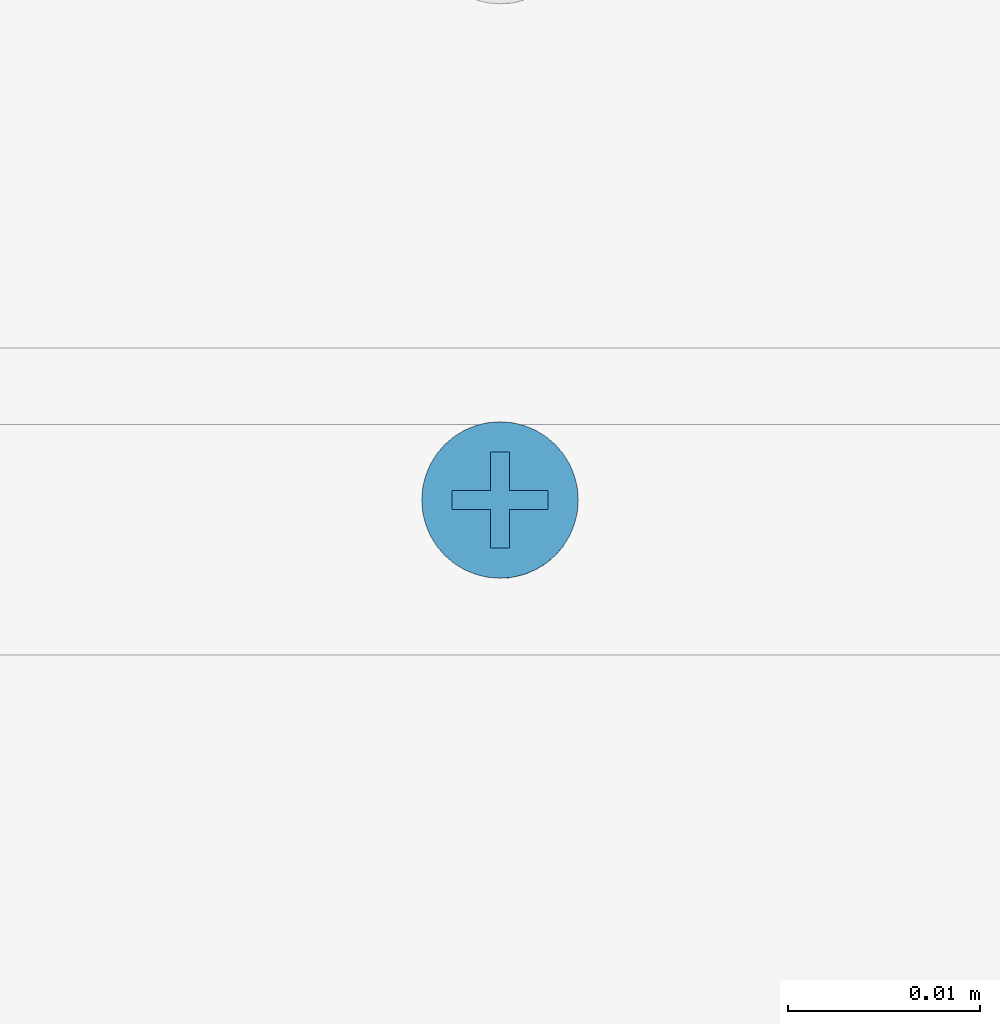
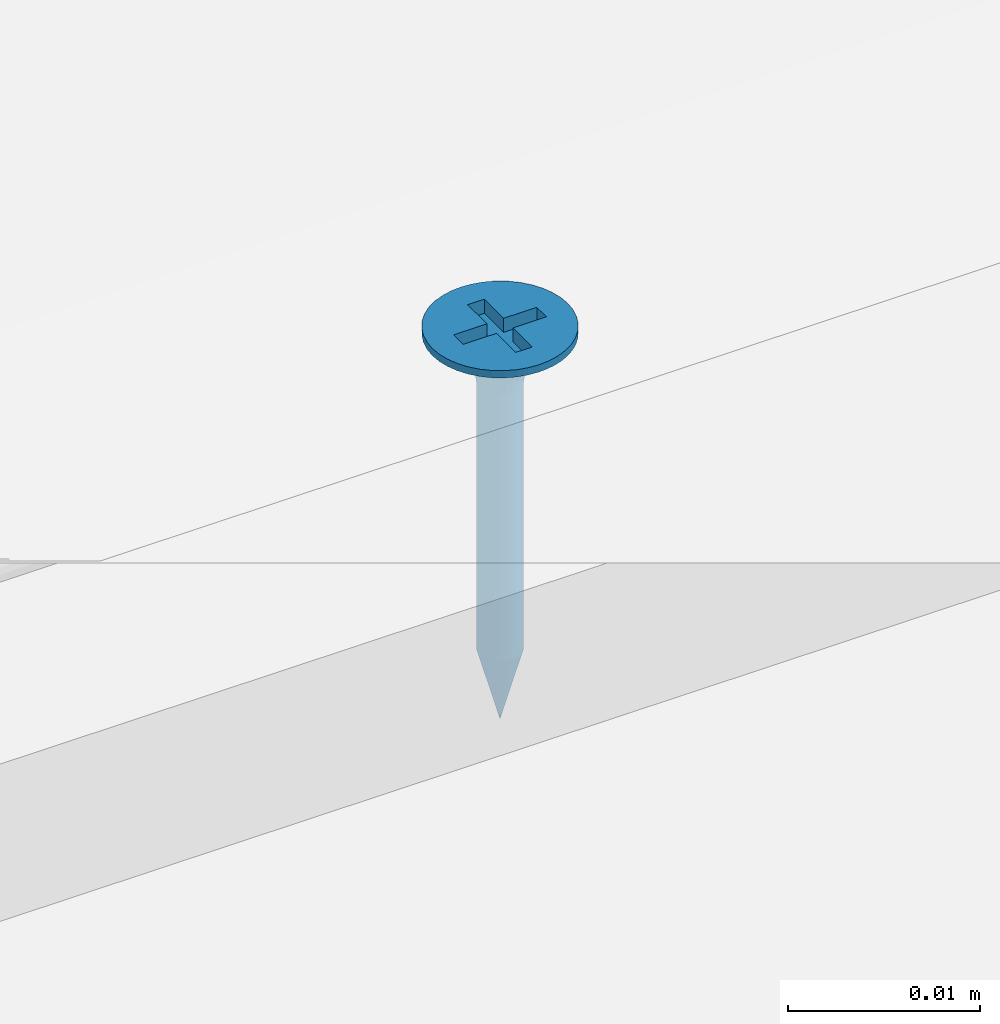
# One storey, part 6 of 47: 1 slab.
"""IFC2X3 building model written with IfcOpenShell, lengths in millimetres."""

import ifcopenshell
import ifcopenshell.guid

model = None  # the IFC model being written
_history = None  # IfcOwnerHistory: only IFC2X3 demands one
_inside = {}  # id of a spatial element -> (the spatial element, [elements in it])
_under = {}  # id of a project, library or spatial element -> (it, [spatial elements below it])
_declared = {}  # id of a project -> (the project, [libraries it declares])
_typed = {}  # id of a type object -> (the type object, [elements of that type])
_made_of = {}  # id of a material, layer set ... -> (it, [elements and type objects made of it])


def new_model(schema):
    """Start an empty IFC model of exactly this schema.

    Asked for "IFC4X3", IfcOpenShell would pick the latest addendum, in which some entities
    have other attributes; the version numbers below select the first issue.
    IFC2X3 requires an IfcOwnerHistory on every rooted entity: one is made here for all.
    """
    global model, _history
    if schema == "IFC4X3":
        model = ifcopenshell.file(schema_version=(4, 3, 0, 0))
    else:
        model = ifcopenshell.file(schema=schema)
    _inside.clear()
    _under.clear()
    _declared.clear()
    _typed.clear()
    _made_of.clear()
    _history = None
    if model.schema == "IFC2X3":
        org = make("IfcOrganization", Name="unknown")
        user = make(
            "IfcPersonAndOrganization",
            ThePerson=make("IfcPerson", FamilyName="unknown"),
            TheOrganization=org,
        )
        app = make(
            "IfcApplication",
            ApplicationDeveloper=org,
            Version="unknown",
            ApplicationFullName="unknown",
            ApplicationIdentifier="unknown",
        )
        _history = make(
            "IfcOwnerHistory",
            OwningUser=user,
            OwningApplication=app,
            ChangeAction="ADDED",
            CreationDate=0,
        )
    return model


def make(cls, **values):
    """One entity of the class cls with the attributes given. An attribute that is None is left unset."""
    return model.create_entity(
        cls, **{name: value for name, value in values.items() if value is not None}
    )


def entity(cls, *values):
    """Any entity or typed value of the class cls, its attributes in the order of the schema. None: left unset."""
    e = model.create_entity(cls)
    for i, value in enumerate(values):
        if value is not None:
            e[i] = value
    return e


def rooted(cls, **values):
    """An entity with a GlobalId (a new one), such as an element, a storey or a relation."""
    return make(cls, GlobalId=ifcopenshell.guid.new(), OwnerHistory=_history, **values)


def si_unit(unit_type, name, prefix=None):
    """IfcSIUnit, for example si_unit("LENGTHUNIT", "METRE", prefix="MILLI")."""
    return make("IfcSIUnit", UnitType=unit_type, Prefix=prefix, Name=name)


def converted_unit(unit_type, name, factor, base, dimensions=None, offset=None):
    """IfcConversionBasedUnit, such as the inch: factor (a typed value) times the base unit."""
    return make(
        "IfcConversionBasedUnit"
        if offset is None
        else "IfcConversionBasedUnitWithOffset",
        ConversionOffset=offset,
        Dimensions=None
        if dimensions is None
        else entity("IfcDimensionalExponents", *dimensions),
        UnitType=unit_type,
        Name=name,
        ConversionFactor=make(
            "IfcMeasureWithUnit", ValueComponent=factor, UnitComponent=base
        ),
    )


def assignment(units):
    """IfcUnitAssignment: the units of a project."""
    return None if units is None else make("IfcUnitAssignment", Units=units)


def point(xyz):
    """IfcCartesianPoint."""
    return None if xyz is None else make("IfcCartesianPoint", Coordinates=xyz)


def direction(xyz):
    """IfcDirection."""
    return None if xyz is None else make("IfcDirection", DirectionRatios=xyz)


def frame(location, z_axis=None, x_axis=None):
    """IfcAxis2Placement3D, a coordinate frame: its origin and axes. An axis left out is left unset."""
    return make(
        "IfcAxis2Placement3D",
        Location=point(location),
        Axis=direction(z_axis),
        RefDirection=direction(x_axis),
    )


def origin():
    """The frame at (0, 0, 0) with its axes left unset."""
    return frame((0.0, 0.0, 0.0))


def origin_with_axes():
    """The frame at (0, 0, 0) with the z axis (0, 0, 1) and the x axis (1, 0, 0) written out."""
    return frame((0.0, 0.0, 0.0), z_axis=(0.0, 0.0, 1.0), x_axis=(1.0, 0.0, 0.0))


def place(relative_to, where):
    """IfcLocalPlacement: puts the frame where relative to a parent placement (None: the world)."""
    return make(
        "IfcLocalPlacement", PlacementRelTo=relative_to, RelativePlacement=where
    )


def context(
    kind, dimensions, precision=None, world=None, true_north=None, identifier=None
):
    """IfcGeometricRepresentationContext, for example the 3D "Model" context."""
    return make(
        "IfcGeometricRepresentationContext",
        ContextIdentifier=identifier,
        ContextType=kind,
        CoordinateSpaceDimension=dimensions,
        Precision=precision,
        WorldCoordinateSystem=world,
        TrueNorth=true_north,
    )


def project(units=None, contexts=None):
    """IfcProject with its units and contexts."""
    return rooted(
        "IfcProject",
        Name="project",
        RepresentationContexts=contexts,
        UnitsInContext=assignment(units),
    )


def spatial(cls, under=None, at=None, **own):
    """A site, building, storey or space (cls), placed at a placement, below another one or the project."""
    s = rooted(cls, ObjectPlacement=at, **own)
    if under is not None:
        _under.setdefault(under.id(), (under, []))[1].append(s)
    return s


def faces_of(points, faces, orient=None, outer=None):
    """IfcFace entities. A face is a list of loops; a loop is a list of indices into points, from 0.

    orient and outer hold one flag for each loop. By default every Orientation is true, the
    first loop of a face is its IfcFaceOuterBound and the others are IfcFaceBound.
    """
    made = []
    for i, loops in enumerate(faces):
        bounds = []
        for j, loop in enumerate(loops):
            is_outer = j == 0 if outer is None else outer[i][j]
            bounds.append(
                make(
                    "IfcFaceOuterBound" if is_outer else "IfcFaceBound",
                    Bound=make("IfcPolyLoop", Polygon=[points[k] for k in loop]),
                    Orientation=True if orient is None else orient[i][j],
                )
            )
        made.append(make("IfcFace", Bounds=bounds))
    return made


def faceted_brep(points, faces, orient=None, outer=None, voids=None):
    """IfcFacetedBrep: a solid bounded by flat faces; with voids (closed shells), ...WithVoids."""
    shared = [point(p) for p in points]
    hull = make("IfcClosedShell", CfsFaces=faces_of(shared, faces, orient, outer))
    if voids is None:
        return make("IfcFacetedBrep", Outer=hull)
    return make(
        "IfcFacetedBrepWithVoids",
        Outer=hull,
        Voids=[
            make(cls, CfsFaces=faces_of(shared, fs, o, b)) for cls, fs, o, b in voids
        ],
    )


def shape(context_of_items, identifier, shape_type, items):
    """IfcShapeRepresentation: the items that make up one representation, for example the "Body"."""
    return make(
        "IfcShapeRepresentation",
        ContextOfItems=context_of_items,
        RepresentationIdentifier=identifier,
        RepresentationType=shape_type,
        Items=items,
    )


def made_of(thing, what):
    """Note that an element or type object is made of a material, layer set ...; save() writes the relation."""
    if what is not None:
        _made_of.setdefault(what.id(), (what, []))[1].append(thing)
    return thing


def element(
    cls,
    number,
    at=None,
    inside=None,
    cuts=None,
    type_object=None,
    material=None,
    context=None,
    identifier="Body",
    shape_type=None,
    held_by="IfcProductDefinitionShape",
    body=None,
    shapes=None,
    **own,
):
    """One element of the class cls, such as IfcWall. Its Tag is "e" and its number.

    at: its placement. inside: the storey or other place that contains it. cuts: it is an
    opening in that element (IfcRelVoidsElement). A single representation is given by context,
    identifier, shape_type and body (its items); several are given by shapes. held_by: the class
    of the entity that holds the representations. save() writes the other relations.
    """
    e = rooted(cls, Tag="e%d" % number, ObjectPlacement=at, **own)
    if body is not None:
        shapes = [shape(context, identifier, shape_type, body)]
    if shapes is not None:
        e.Representation = make(held_by, Representations=shapes)
    if inside is not None:
        _inside.setdefault(inside.id(), (inside, []))[1].append(e)
    if cuts is not None:
        rooted(
            "IfcRelVoidsElement", RelatingBuildingElement=cuts, RelatedOpeningElement=e
        )
    if type_object is not None:
        _typed.setdefault(type_object.id(), (type_object, []))[1].append(e)
    return made_of(e, material)


def aggregate(whole, parts):
    """IfcRelAggregates: a whole, such as a stair, and the parts it consists of."""
    return rooted("IfcRelAggregates", RelatingObject=whole, RelatedObjects=parts)


def save(model, path):
    """Write the relations noted so far, then the file.

    IfcRelAggregates (storeys below a building ...), IfcRelContainedInSpatialStructure (elements
    in a storey), IfcRelDefinesByType, IfcRelAssociatesMaterial and IfcRelDeclares: one each for
    every whole, place, type object, material and project.
    """
    for whole, parts in _under.values():
        aggregate(whole, parts)
    for where, things in _inside.values():
        rooted(
            "IfcRelContainedInSpatialStructure",
            RelatedElements=things,
            RelatingStructure=where,
        )
    for kind, things in _typed.values():
        rooted("IfcRelDefinesByType", RelatedObjects=things, RelatingType=kind)
    for what, things in _made_of.values():
        rooted("IfcRelAssociatesMaterial", RelatedObjects=things, RelatingMaterial=what)
    for by, libraries in _declared.values():
        rooted("IfcRelDeclares", RelatingContext=by, RelatedDefinitions=libraries)
    model.write(path)


model = new_model("IFC2X3")

# Units and contexts
model_context = context("Model", 3, precision=1e-05, world=origin(), true_north=direction((0.0, 1.0, 0.0)))
ifc_project = project(units=[si_unit("LENGTHUNIT", "METRE", prefix="MILLI"), si_unit("AREAUNIT", "SQUARE_METRE"), si_unit("VOLUMEUNIT", "CUBIC_METRE"), converted_unit("PLANEANGLEUNIT", "DEGREE", entity("IfcPlaneAngleMeasure", 0.01745), si_unit("PLANEANGLEUNIT", "RADIAN"), dimensions=[0, 0, 0, 0, 0, 0, 0]), si_unit("SOLIDANGLEUNIT", "STERADIAN"), si_unit("MASSUNIT", "GRAM"), si_unit("TIMEUNIT", "SECOND"), si_unit("THERMODYNAMICTEMPERATUREUNIT", "DEGREE_CELSIUS"), si_unit("LUMINOUSINTENSITYUNIT", "LUMEN")], contexts=[model_context])

# Site, building, storey
site_placement = place(None, origin_with_axes())
site = spatial("IfcSite", under=ifc_project, at=site_placement, Name="Default Site", CompositionType="ELEMENT")
building_placement = place(site_placement, origin_with_axes())
building = spatial("IfcBuilding", under=site, at=building_placement, Name="Default Building", CompositionType="ELEMENT")
storey_placement = place(building_placement, origin_with_axes())
storey = spatial("IfcBuildingStorey", under=building, at=storey_placement, Name="Default Building Storey", CompositionType="ELEMENT", Elevation=0.0)

# Slab
slab_placement = place(storey_placement, frame((2385.048962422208, 928.4586075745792, -3328.636918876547), z_axis=(-1.85031715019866e-13, 1.0, -1.136587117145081e-12), x_axis=(-1.0, -1.850317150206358e-13, -6.773047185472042e-13)))
element("IfcSlab", 1, at=slab_placement, inside=storey, Name="Wkręt RIGIPS Rigidur 3,9x19 mm", context=model_context, shape_type="Brep", body=[
    faceted_brep([(-141.5377463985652, 3390.556721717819, 555.8000000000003), (-141.5377463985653, 3391.020944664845, 555.8000000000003), (-141.4875329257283, 3391.020944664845, 555.1619773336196), (-141.4875329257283, 3390.556721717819, 555.1619773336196), (-141.3381289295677, 3391.020944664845, 554.5396649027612), (-141.3381289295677, 3390.556721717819, 554.5396649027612), (-141.0932132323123, 3391.020944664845, 553.9483861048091), (-141.0932132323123, 3390.556721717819, 553.9483861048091), (-140.7588164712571, 3391.020944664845, 553.4027001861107), (-140.7588164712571, 3390.556721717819, 553.4027001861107), (-140.3431726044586, 3391.020944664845, 552.9160437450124), (-140.4541727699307, 3390.556721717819, 553.0314907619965), (-140.1080097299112, 3390.556721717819, 552.6986614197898), (-139.8565161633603, 3391.020944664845, 552.5003998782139), (-139.7251262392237, 3390.556721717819, 552.4088262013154), (-139.310830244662, 3391.020944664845, 552.1660031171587), (-139.310830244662, 3390.556721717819, 552.1660031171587), (-138.8708651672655, 3390.556721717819, 551.9735584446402), (-138.7195514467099, 3391.020944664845, 551.9210874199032), (-138.4113302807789, 3390.556721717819, 551.8341600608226), (-137.9385961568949, 3390.556721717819, 551.7497404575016), (-138.0972390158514, 3391.020944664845, 551.7716834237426), (-137.4592163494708, 3391.020944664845, 551.7214699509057), (-137.4592163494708, 3390.556721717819, 551.7214699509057), (-136.8211936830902, 3391.020944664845, 551.7716834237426), (-136.8211936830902, 3390.556721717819, 551.7716834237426), (-136.1988812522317, 3391.020944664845, 551.9210874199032), (-136.1988812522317, 3390.556721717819, 551.9210874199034), (-135.6076024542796, 3391.020944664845, 552.1660031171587), (-135.6076024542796, 3390.556721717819, 552.1660031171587), (-135.0619165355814, 3391.020944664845, 552.5003998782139), (-135.0619165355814, 3390.556721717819, 552.5003998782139), (-134.575260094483, 3391.020944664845, 552.9160437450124), (-134.575260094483, 3390.556721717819, 552.9160437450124), (-134.1596162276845, 3391.020944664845, 553.4027001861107), (-134.1596162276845, 3390.556721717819, 553.4027001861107), (-133.8252194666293, 3391.020944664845, 553.9483861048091), (-133.8252194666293, 3390.556721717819, 553.9483861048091), (-133.5803037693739, 3391.020944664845, 554.5396649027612), (-133.5803037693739, 3390.556721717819, 554.5396649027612), (-133.4308997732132, 3391.020944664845, 556.4380226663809), (-133.4308997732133, 3390.556721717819, 556.4380226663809), (-133.3806863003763, 3390.556721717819, 555.8000000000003), (-133.3806863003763, 3391.020944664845, 555.8000000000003), (-133.4308997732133, 3390.556721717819, 555.1619773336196), (-133.4308997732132, 3391.020944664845, 555.1619773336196), (-133.5803037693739, 3391.020944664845, 557.0603350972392), (-133.5803037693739, 3390.556721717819, 557.0603350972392), (-133.8252194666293, 3391.020944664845, 557.6516138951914), (-133.8252194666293, 3390.556721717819, 557.6516138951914), (-134.1596162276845, 3391.020944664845, 558.1972998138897), (-134.1596162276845, 3390.556721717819, 558.1972998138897), (-134.575260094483, 3391.020944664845, 558.683956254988), (-134.575260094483, 3390.556721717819, 558.683956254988), (-135.0619165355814, 3391.020944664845, 559.0996001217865), (-135.0619165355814, 3390.556721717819, 559.0996001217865), (-135.6076024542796, 3391.020944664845, 559.4339968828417), (-135.6076024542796, 3390.556721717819, 559.4339968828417), (-136.1988812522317, 3391.020944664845, 559.6789125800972), (-136.1988812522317, 3390.556721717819, 559.6789125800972), (-136.8211936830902, 3391.020944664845, 559.8283165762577), (-136.8211936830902, 3390.556721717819, 559.8283165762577), (-137.4592163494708, 3391.020944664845, 559.8785300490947), (-137.4592163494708, 3390.556721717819, 559.8785300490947), (-138.0972390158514, 3391.020944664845, 559.8283165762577), (-138.0972390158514, 3390.556721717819, 559.8283165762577), (-138.7195514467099, 3391.020944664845, 559.6789125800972), (-138.7195514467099, 3390.556721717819, 559.6789125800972), (-139.310830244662, 3391.020944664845, 559.4339968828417), (-139.310830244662, 3390.556721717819, 559.4339968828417), (-139.8565161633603, 3391.020944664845, 559.0996001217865), (-139.8565161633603, 3390.556721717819, 559.0996001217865), (-140.3431726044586, 3391.020944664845, 558.683956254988), (-140.3431726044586, 3390.556721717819, 558.683956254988), (-140.7588164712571, 3391.020944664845, 558.1972998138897), (-140.7588164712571, 3390.556721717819, 558.1972998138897), (-141.0932132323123, 3391.020944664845, 557.6516138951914), (-141.0932132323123, 3390.556721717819, 557.6516138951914), (-141.3381289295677, 3391.020944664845, 557.0603350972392), (-141.3381289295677, 3390.556721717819, 557.0603350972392), (-141.4875329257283, 3391.020944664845, 556.4380226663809), (-141.4875329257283, 3390.556721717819, 556.4380226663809), (-137.80606154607, 3388.229732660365, 554.5055560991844), (-137.4592163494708, 3387.475459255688, 554.5693795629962), (-137.6517277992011, 3387.475459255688, 554.5845305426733), (-137.4592163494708, 3388.229732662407, 554.4598930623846), (-137.8394989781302, 3387.475459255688, 554.6296104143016), (-138.1292698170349, 3388.229732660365, 554.639433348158), (-138.0179063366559, 3387.475459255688, 554.7035091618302), (-138.1825568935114, 3387.475459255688, 554.804407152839), (-138.4068150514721, 3388.229732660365, 554.8524012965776), (-138.3293964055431, 3387.475459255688, 554.929819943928), (-138.6197830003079, 3388.229732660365, 555.1299465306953), (-138.4548091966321, 3387.475459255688, 555.0766594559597), (-138.5557071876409, 3387.475459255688, 555.2413100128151), (-138.7536602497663, 3388.229732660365, 555.4531548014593), (-138.6296059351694, 3387.475459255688, 555.4197173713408), (-138.6746858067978, 3387.475459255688, 555.60748855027), (-138.7993232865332, 3388.229732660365, 555.7999999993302), (-138.6898367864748, 3387.475459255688, 555.8000000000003), (-138.753660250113, 3388.229732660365, 556.1468451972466), (-138.6746858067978, 3387.475459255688, 555.9925114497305), (-138.6296059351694, 3387.475459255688, 556.1802826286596), (-138.619783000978, 3388.229732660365, 556.4700534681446), (-138.5557071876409, 3387.475459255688, 556.3586899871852), (-138.4548091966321, 3387.475459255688, 556.5233405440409), (-138.4068150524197, 3388.229732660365, 556.7475987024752), (-138.3293964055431, 3387.475459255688, 556.6701800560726), (-138.1292698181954, 3388.229732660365, 556.9605666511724), (-138.1825568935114, 3387.475459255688, 556.7955928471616), (-138.0179063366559, 3387.475459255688, 556.8964908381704), (-137.8060615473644, 3388.229732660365, 557.0944439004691), (-137.8394989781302, 3387.475459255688, 556.9703895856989), (-137.6517277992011, 3387.475459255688, 557.0154694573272), (-137.4592163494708, 3388.229732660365, 557.1401069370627), (-137.4592163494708, 3387.475459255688, 557.0306204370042), (-137.1123711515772, 3388.229732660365, 557.0944439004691), (-137.2667048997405, 3387.475459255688, 557.0154694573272), (-137.0789337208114, 3387.475459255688, 556.9703895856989), (-136.7891628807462, 3388.229732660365, 556.9605666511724), (-136.9005263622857, 3387.475459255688, 556.8964908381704), (-136.7358758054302, 3387.475459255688, 556.7955928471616), (-136.5116176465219, 3388.229732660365, 556.7475987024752), (-136.5890362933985, 3387.475459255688, 556.6701800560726), (-136.2986496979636, 3388.229732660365, 556.4700534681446), (-136.4636235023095, 3387.475459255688, 556.5233405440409), (-136.3627255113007, 3387.475459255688, 556.3586899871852), (-136.1647724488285, 3388.229732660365, 556.1468451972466), (-136.2888267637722, 3387.475459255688, 556.1802826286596), (-136.2437468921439, 3387.475459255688, 555.9925114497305), (-136.1191094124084, 3388.229732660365, 555.7999999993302), (-136.2285959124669, 3387.475459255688, 555.8000000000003), (-136.1647724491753, 3388.229732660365, 555.4531548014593), (-136.2437468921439, 3387.475459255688, 555.60748855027), (-136.2888267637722, 3387.475459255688, 555.4197173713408), (-136.2986496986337, 3388.229732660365, 555.1299465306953), (-136.3627255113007, 3387.475459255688, 555.2413100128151), (-136.4636235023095, 3387.475459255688, 555.0766594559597), (-136.5116176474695, 3388.229732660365, 554.8524012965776), (-136.5890362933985, 3387.475459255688, 554.929819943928), (-136.7891628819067, 3388.229732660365, 554.639433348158), (-136.7358758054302, 3387.475459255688, 554.804407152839), (-136.9005263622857, 3387.475459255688, 554.7035091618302), (-137.1123711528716, 3388.229732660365, 554.5055560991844), (-137.0789337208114, 3387.475459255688, 554.6296104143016), (-137.2667048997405, 3387.475459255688, 554.5845305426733), (-137.4592163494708, 3388.936142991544, 554.1737111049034), (-137.8801308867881, 3388.936142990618, 554.229125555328), (-138.2723607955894, 3388.936142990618, 554.3915925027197), (-138.6091762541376, 3388.936142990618, 554.6500400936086), (-138.8676238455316, 3388.936142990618, 554.9868555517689), (-139.0300907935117, 3388.936142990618, 555.3790854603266), (-139.0855052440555, 3388.936142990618, 555.7999999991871), (-139.0300907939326, 3388.936142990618, 556.2209145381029), (-138.8676238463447, 3388.936142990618, 556.6131444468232), (-138.6091762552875, 3388.936142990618, 556.9499599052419), (-138.2723607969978, 3388.936142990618, 557.2084074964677), (-137.880130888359, 3388.936142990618, 557.3708744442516), (-137.4592163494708, 3388.936142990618, 557.426288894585), (-137.0383018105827, 3388.936142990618, 557.3708744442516), (-136.6460719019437, 3388.936142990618, 557.2084074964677), (-136.3092564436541, 3388.936142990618, 556.9499599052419), (-136.0508088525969, 3388.936142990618, 556.6131444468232), (-135.8883419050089, 3388.936142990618, 556.2209145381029), (-135.8329274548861, 3388.936142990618, 555.7999999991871), (-135.8883419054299, 3388.936142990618, 555.3790854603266), (-136.05080885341, 3388.936142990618, 554.9868555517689), (-136.309256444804, 3388.936142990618, 554.6500400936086), (-136.6460719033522, 3388.936142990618, 554.3915925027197), (-137.0383018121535, 3388.936142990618, 554.229125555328), (-137.4592163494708, 3389.553938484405, 553.7273431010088), (-137.9956594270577, 3389.553938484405, 553.7979671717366), (-138.4955447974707, 3389.553938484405, 554.005026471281), (-138.9248060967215, 3389.553938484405, 554.3344102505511), (-139.2541898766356, 3389.553938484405, 554.7636715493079), (-139.4612491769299, 3389.553938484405, 555.2635569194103), (-139.5318732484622, 3389.553938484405, 555.7999999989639), (-139.4612491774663, 3389.553938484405, 556.3364430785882), (-139.2541898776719, 3389.553938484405, 556.8363284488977), (-138.9248060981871, 3389.553938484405, 557.2655897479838), (-138.4955447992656, 3389.553938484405, 557.594973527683), (-137.9956594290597, 3389.553938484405, 557.8020328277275), (-137.4592163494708, 3389.553938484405, 557.8726568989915), (-136.9227732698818, 3389.553938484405, 557.8020328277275), (-136.4228878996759, 3389.553938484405, 557.594973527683), (-135.9936266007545, 3389.553938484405, 557.2655897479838), (-135.6642428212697, 3389.553938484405, 556.8363284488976), (-135.4571835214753, 3389.553938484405, 556.3364430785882), (-135.3865594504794, 3389.553938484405, 555.7999999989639), (-135.4571835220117, 3389.553938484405, 555.2635569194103), (-135.664242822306, 3389.553938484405, 554.7636715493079), (-135.9936266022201, 3389.553938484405, 554.3344102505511), (-136.4228879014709, 3389.553938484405, 554.005026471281), (-136.9227732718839, 3389.553938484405, 553.7979671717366), (-137.4592163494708, 3390.047479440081, 553.1465393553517), (-138.1459824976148, 3390.047479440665, 553.2369538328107), (-138.7859466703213, 3390.047479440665, 553.5020356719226), (-139.3354963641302, 3390.047479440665, 553.9237199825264), (-139.7571806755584, 3390.047479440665, 554.4732696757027), (-140.0222625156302, 3390.047479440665, 555.1132338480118), (-140.1126769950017, 3390.047479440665, 555.7999999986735), (-140.0222625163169, 3390.047479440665, 556.4867661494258), (-139.7571806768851, 3390.047479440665, 557.1267303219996), (-139.3354963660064, 3390.047479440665, 557.6762800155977), (-138.7859466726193, 3390.047479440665, 558.0979643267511), (-138.1459825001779, 3390.047479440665, 558.3630461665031), (-137.4592163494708, 3390.047479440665, 558.4534606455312), (-136.7724501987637, 3390.047479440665, 558.3630461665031), (-136.1324860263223, 3390.047479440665, 558.0979643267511), (-135.5829363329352, 3390.047479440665, 557.6762800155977), (-135.1612520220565, 3390.047479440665, 557.1267303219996), (-134.8961701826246, 3390.047479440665, 556.4867661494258), (-134.8057557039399, 3390.047479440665, 555.7999999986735), (-134.8961701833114, 3390.047479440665, 555.1132338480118), (-135.1612520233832, 3390.047479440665, 554.4732696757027), (-135.5829363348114, 3390.047479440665, 553.9237199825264), (-136.1324860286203, 3390.047479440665, 553.5020356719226), (-136.7724502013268, 3390.047479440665, 553.2369538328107), (-137.4592163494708, 3390.388294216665, 552.4648055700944), (-138.3224281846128, 3390.388294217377, 552.578449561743), (-139.1268135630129, 3390.388294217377, 552.9116368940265), (-139.8175549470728, 3390.388294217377, 553.4416613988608), (-140.3475794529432, 3390.388294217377, 554.1324027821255), (-140.6807667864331, 3390.388294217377, 554.9367881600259), (-140.7944107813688, 3390.388294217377, 555.7999999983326), (-140.6807667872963, 3390.388294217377, 556.6632118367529), (-140.3475794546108, 3390.388294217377, 557.4675972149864), (-139.8175549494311, 3390.388294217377, 558.1583385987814), (-139.1268135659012, 3390.388294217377, 558.6883631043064), (-138.3224281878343, 3390.388294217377, 559.0215504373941), (-137.4592163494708, 3390.388294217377, 559.1351944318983), (-136.5960045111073, 3390.388294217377, 559.0215504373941), (-135.7916191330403, 3390.388294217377, 558.6883631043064), (-135.1008777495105, 3390.388294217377, 558.1583385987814), (-134.5708532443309, 3390.388294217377, 557.4675972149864), (-134.2376659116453, 3390.388294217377, 556.6632118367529), (-134.1240219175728, 3390.388294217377, 555.7999999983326), (-134.2376659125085, 3390.388294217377, 554.9367881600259), (-134.5708532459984, 3390.388294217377, 554.1324027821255), (-135.1008777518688, 3390.388294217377, 553.4416613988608), (-135.7916191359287, 3390.388294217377, 552.9116368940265), (-136.5960045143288, 3390.388294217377, 552.578449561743), (-138.6898367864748, 3370.55807436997, 555.8000000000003), (-138.6746858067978, 3370.55807436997, 555.60748855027), (-138.6296059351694, 3370.55807436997, 555.4197173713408), (-138.5557071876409, 3370.55807436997, 555.2413100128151), (-138.4548091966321, 3370.55807436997, 555.0766594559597), (-138.3293964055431, 3370.55807436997, 554.929819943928), (-138.1825568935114, 3370.55807436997, 554.804407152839), (-138.0179063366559, 3370.55807436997, 554.7035091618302), (-137.8394989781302, 3370.55807436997, 554.6296104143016), (-137.6517277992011, 3370.55807436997, 554.5845305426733), (-137.4592163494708, 3370.55807436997, 554.5693795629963), (-137.2667048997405, 3370.55807436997, 554.5845305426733), (-137.0789337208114, 3370.55807436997, 554.6296104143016), (-136.9005263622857, 3370.55807436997, 554.7035091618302), (-136.7358758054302, 3370.55807436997, 554.804407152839), (-136.5890362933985, 3370.55807436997, 554.929819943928), (-136.4636235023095, 3370.55807436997, 555.0766594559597), (-136.3627255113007, 3370.55807436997, 555.2413100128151), (-136.2888267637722, 3370.55807436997, 555.4197173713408), (-136.2437468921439, 3370.55807436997, 555.9925114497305), (-136.2285959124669, 3370.55807436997, 555.8000000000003), (-136.2437468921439, 3370.55807436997, 555.60748855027), (-136.2888267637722, 3370.55807436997, 556.1802826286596), (-136.3627255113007, 3370.55807436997, 556.3586899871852), (-136.4636235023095, 3370.55807436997, 556.5233405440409), (-136.5890362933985, 3370.55807436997, 556.6701800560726), (-136.7358758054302, 3370.55807436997, 556.7955928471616), (-136.9005263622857, 3370.55807436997, 556.8964908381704), (-137.0789337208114, 3370.55807436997, 556.9703895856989), (-137.2667048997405, 3370.55807436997, 557.0154694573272), (-137.4592163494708, 3370.55807436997, 557.0306204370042), (-137.6517277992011, 3370.55807436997, 557.0154694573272), (-137.8394989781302, 3370.55807436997, 556.9703895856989), (-138.0179063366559, 3370.55807436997, 556.8964908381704), (-138.1825568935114, 3370.55807436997, 556.7955928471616), (-138.3293964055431, 3370.55807436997, 556.6701800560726), (-138.4548091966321, 3370.55807436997, 556.5233405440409), (-138.5557071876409, 3370.55807436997, 556.3586899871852), (-138.6296059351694, 3370.55807436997, 556.1802826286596), (-138.6746858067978, 3370.55807436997, 555.9925114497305), (-137.4592163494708, 3366.021033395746, 555.8000000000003), (-139.9592163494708, 3391.020944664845, 556.3000000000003), (-137.9592163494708, 3391.020944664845, 556.3000000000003), (-139.9592163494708, 3391.020944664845, 555.3000000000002), (-137.9592163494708, 3391.020944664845, 555.3000000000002), (-137.9592163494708, 3391.020944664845, 553.3000000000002), (-136.9592163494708, 3391.020944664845, 553.3000000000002), (-136.9592163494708, 3391.020944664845, 555.3000000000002), (-134.9592163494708, 3391.020944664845, 555.3000000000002), (-134.9592163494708, 3391.020944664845, 556.3000000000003), (-136.9592163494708, 3391.020944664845, 556.3000000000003), (-136.9592163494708, 3391.020944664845, 558.3000000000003), (-137.9592163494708, 3391.020944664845, 558.3000000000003), (-136.9592163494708, 3390.128974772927, 556.3000000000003), (-134.9592163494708, 3390.128974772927, 556.3000000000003), (-134.9592163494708, 3390.128974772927, 555.3000000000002), (-136.9592163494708, 3390.128974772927, 555.3000000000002), (-136.9592163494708, 3390.128974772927, 553.3000000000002), (-137.9592163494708, 3390.128974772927, 553.3000000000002), (-137.9592163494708, 3390.128974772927, 555.3000000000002), (-139.9592163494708, 3390.128974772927, 555.3000000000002), (-139.9592163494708, 3390.128974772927, 556.3000000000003), (-137.9592163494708, 3390.128974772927, 556.3000000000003), (-137.9592163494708, 3390.128974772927, 558.3000000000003), (-136.9592163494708, 3390.128974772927, 558.3000000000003)], [[[0, 1, 2, 3]], [[4, 5, 3, 2]], [[6, 7, 5, 4]], [[7, 6, 8, 9]], [[8, 10, 9]], [[10, 11, 9]], [[12, 11, 13]], [[11, 10, 13]], [[13, 14, 12]], [[13, 15, 14]], [[15, 16, 14]], [[17, 16, 18]], [[16, 15, 18]], [[18, 19, 17]], [[20, 19, 21]], [[19, 18, 21]], [[21, 22, 20]], [[22, 23, 20]], [[23, 22, 24, 25]], [[26, 27, 25, 24]], [[28, 29, 27, 26]], [[29, 28, 30, 31]], [[32, 33, 31, 30]], [[33, 32, 34, 35]], [[36, 37, 35, 34]], [[38, 39, 37, 36]], [[40, 41, 42, 43]], [[43, 42, 44, 45]], [[39, 38, 45, 44]], [[46, 47, 41, 40]], [[48, 49, 47, 46]], [[49, 48, 50, 51]], [[52, 53, 51, 50]], [[53, 52, 54, 55]], [[56, 57, 55, 54]], [[58, 59, 57, 56]], [[59, 58, 60, 61]], [[62, 63, 61, 60]], [[63, 62, 64, 65]], [[66, 67, 65, 64]], [[68, 69, 67, 66]], [[69, 68, 70, 71]], [[72, 73, 71, 70]], [[73, 72, 74, 75]], [[76, 77, 75, 74]], [[78, 79, 77, 76]], [[79, 78, 80, 81]], [[1, 0, 81, 80]], [[82, 83, 84]], [[82, 85, 83]], [[84, 86, 82]], [[82, 86, 87]], [[88, 87, 86]], [[87, 88, 89]], [[89, 90, 87]], [[89, 91, 90]], [[92, 91, 93]], [[92, 90, 91]], [[93, 94, 92]], [[92, 94, 95]], [[96, 95, 94]], [[95, 96, 97]], [[97, 98, 95]], [[97, 99, 98]], [[100, 99, 101]], [[100, 98, 99]], [[101, 102, 100]], [[100, 102, 103]], [[104, 103, 102]], [[103, 104, 105]], [[105, 106, 103]], [[105, 107, 106]], [[108, 107, 109]], [[108, 106, 107]], [[109, 110, 108]], [[108, 110, 111]], [[112, 111, 110]], [[111, 112, 113]], [[113, 114, 111]], [[113, 115, 114]], [[116, 115, 117]], [[116, 114, 115]], [[117, 118, 116]], [[116, 118, 119]], [[120, 119, 118]], [[119, 120, 121]], [[121, 122, 119]], [[121, 123, 122]], [[124, 123, 125]], [[124, 122, 123]], [[125, 126, 124]], [[124, 126, 127]], [[128, 127, 126]], [[127, 128, 129]], [[129, 130, 127]], [[129, 131, 130]], [[132, 131, 133]], [[132, 130, 131]], [[133, 134, 132]], [[132, 134, 135]], [[136, 135, 134]], [[135, 136, 137]], [[137, 138, 135]], [[137, 139, 138]], [[140, 139, 141]], [[140, 138, 139]], [[141, 142, 140]], [[140, 142, 143]], [[144, 143, 142]], [[143, 144, 145]], [[145, 85, 143]], [[145, 83, 85]], [[146, 85, 147]], [[82, 147, 85]], [[87, 148, 147, 82]], [[90, 149, 148, 87]], [[92, 150, 149, 90]], [[95, 151, 150, 92]], [[98, 152, 151, 95]], [[100, 153, 152, 98]], [[103, 154, 153, 100]], [[106, 155, 154, 103]], [[108, 156, 155, 106]], [[111, 157, 156, 108]], [[114, 158, 157, 111]], [[116, 159, 158, 114]], [[119, 160, 159, 116]], [[122, 161, 160, 119]], [[124, 162, 161, 122]], [[127, 163, 162, 124]], [[130, 164, 163, 127]], [[132, 165, 164, 130]], [[135, 166, 165, 132]], [[138, 167, 166, 135]], [[140, 168, 167, 138]], [[143, 169, 168, 140]], [[143, 85, 169]], [[146, 169, 85]], [[170, 146, 171]], [[147, 171, 146]], [[148, 172, 171, 147]], [[149, 173, 172, 148]], [[150, 174, 173, 149]], [[151, 175, 174, 150]], [[152, 176, 175, 151]], [[153, 177, 176, 152]], [[154, 178, 177, 153]], [[155, 179, 178, 154]], [[156, 180, 179, 155]], [[157, 181, 180, 156]], [[158, 182, 181, 157]], [[159, 183, 182, 158]], [[160, 184, 183, 159]], [[161, 185, 184, 160]], [[162, 186, 185, 161]], [[163, 187, 186, 162]], [[164, 188, 187, 163]], [[165, 189, 188, 164]], [[166, 190, 189, 165]], [[167, 191, 190, 166]], [[168, 192, 191, 167]], [[169, 193, 192, 168]], [[169, 146, 193]], [[170, 193, 146]], [[194, 170, 195]], [[171, 195, 170]], [[172, 196, 195, 171]], [[173, 197, 196, 172]], [[174, 198, 197, 173]], [[175, 199, 198, 174]], [[176, 200, 199, 175]], [[177, 201, 200, 176]], [[178, 202, 201, 177]], [[179, 203, 202, 178]], [[180, 204, 203, 179]], [[181, 205, 204, 180]], [[182, 206, 205, 181]], [[183, 207, 206, 182]], [[184, 208, 207, 183]], [[185, 209, 208, 184]], [[186, 210, 209, 185]], [[187, 211, 210, 186]], [[188, 212, 211, 187]], [[189, 213, 212, 188]], [[190, 214, 213, 189]], [[191, 215, 214, 190]], [[192, 216, 215, 191]], [[193, 217, 216, 192]], [[193, 170, 217]], [[194, 217, 170]], [[218, 19, 20]], [[218, 219, 19]], [[20, 23, 218]], [[218, 194, 219]], [[195, 219, 194]], [[219, 16, 17]], [[219, 220, 16]], [[17, 19, 219]], [[196, 220, 219, 195]], [[221, 11, 12]], [[220, 12, 14]], [[220, 221, 12]], [[14, 16, 220]], [[197, 221, 220, 196]], [[222, 7, 9]], [[9, 221, 222]], [[9, 11, 221]], [[198, 222, 221, 197]], [[5, 7, 223]], [[222, 223, 7]], [[199, 223, 222, 198]], [[223, 0, 3]], [[223, 224, 0]], [[3, 5, 223]], [[200, 224, 223, 199]], [[225, 79, 81]], [[81, 224, 225]], [[81, 0, 224]], [[201, 225, 224, 200]], [[225, 226, 77, 79]], [[202, 226, 225, 201]], [[226, 73, 75]], [[226, 227, 73]], [[75, 77, 226]], [[203, 227, 226, 202]], [[228, 69, 71]], [[71, 227, 228]], [[71, 73, 227]], [[204, 228, 227, 203]], [[228, 229, 67, 69]], [[205, 229, 228, 204]], [[229, 63, 65]], [[229, 230, 63]], [[65, 67, 229]], [[206, 230, 229, 205]], [[231, 59, 61]], [[61, 230, 231]], [[61, 63, 230]], [[207, 231, 230, 206]], [[231, 232, 57, 59]], [[208, 232, 231, 207]], [[232, 53, 55]], [[232, 233, 53]], [[55, 57, 232]], [[209, 233, 232, 208]], [[234, 49, 51]], [[51, 233, 234]], [[51, 53, 233]], [[210, 234, 233, 209]], [[234, 235, 47, 49]], [[211, 235, 234, 210]], [[235, 42, 41]], [[235, 236, 42]], [[41, 47, 235]], [[212, 236, 235, 211]], [[237, 39, 44]], [[44, 236, 237]], [[44, 42, 236]], [[213, 237, 236, 212]], [[37, 39, 238]], [[237, 238, 39]], [[214, 238, 237, 213]], [[238, 33, 35]], [[238, 239, 33]], [[35, 37, 238]], [[215, 239, 238, 214]], [[240, 29, 31]], [[31, 239, 240]], [[31, 33, 239]], [[216, 240, 239, 215]], [[27, 29, 241]], [[240, 241, 29]], [[217, 241, 240, 216]], [[217, 194, 241]], [[218, 241, 194]], [[241, 23, 25]], [[241, 218, 23]], [[25, 27, 241]], [[242, 99, 97, 243]], [[96, 244, 243, 97]], [[94, 245, 244, 96]], [[245, 94, 93, 246]], [[91, 247, 246, 93]], [[247, 91, 89, 248]], [[88, 249, 248, 89]], [[86, 250, 249, 88]], [[250, 86, 84, 251]], [[83, 252, 251, 84]], [[252, 83, 145, 253]], [[144, 254, 253, 145]], [[142, 255, 254, 144]], [[255, 142, 141, 256]], [[139, 257, 256, 141]], [[257, 139, 137, 258]], [[136, 259, 258, 137]], [[134, 260, 259, 136]], [[129, 261, 262, 131]], [[131, 262, 263, 133]], [[260, 134, 133, 263]], [[128, 264, 261, 129]], [[126, 265, 264, 128]], [[265, 126, 125, 266]], [[123, 267, 266, 125]], [[267, 123, 121, 268]], [[120, 269, 268, 121]], [[118, 270, 269, 120]], [[270, 118, 117, 271]], [[115, 272, 271, 117]], [[272, 115, 113, 273]], [[112, 274, 273, 113]], [[110, 275, 274, 112]], [[275, 110, 109, 276]], [[107, 277, 276, 109]], [[277, 107, 105, 278]], [[104, 279, 278, 105]], [[102, 280, 279, 104]], [[280, 102, 101, 281]], [[99, 242, 281, 101]], [[243, 244, 282]], [[282, 242, 243]], [[244, 245, 282]], [[246, 247, 282]], [[282, 245, 246]], [[248, 249, 282]], [[282, 247, 248]], [[249, 250, 282]], [[251, 252, 282]], [[282, 250, 251]], [[253, 254, 282]], [[282, 252, 253]], [[254, 255, 282]], [[256, 257, 282]], [[282, 255, 256]], [[258, 259, 282]], [[282, 257, 258]], [[259, 260, 282]], [[263, 262, 282]], [[282, 260, 263]], [[261, 264, 282]], [[282, 262, 261]], [[264, 265, 282]], [[266, 267, 282]], [[282, 265, 266]], [[268, 269, 282]], [[282, 267, 268]], [[269, 270, 282]], [[271, 272, 282]], [[282, 270, 271]], [[273, 274, 282]], [[282, 272, 273]], [[274, 275, 282]], [[276, 277, 282]], [[282, 275, 276]], [[278, 279, 282]], [[282, 277, 278]], [[279, 280, 282]], [[281, 242, 282]], [[282, 280, 281]], [[283, 76, 74, 284]], [[283, 285, 286, 287, 288, 289, 290, 291, 292, 293, 294, 284, 74, 72, 70, 68, 66, 64, 62, 60, 58, 56, 54, 52, 50, 48, 46, 40, 43, 45, 38, 36, 34, 32, 30, 28, 26, 24, 22, 21, 18, 15, 13, 10, 8, 6, 4, 2, 1, 80, 78, 76]], [[295, 296, 297, 298, 299, 300, 301, 302, 303, 304, 305, 306]], [[297, 290, 289, 298]], [[296, 291, 290, 297]], [[295, 292, 291, 296]], [[306, 293, 292, 295]], [[305, 294, 293, 306]], [[304, 284, 294, 305]], [[303, 283, 284, 304]], [[302, 285, 283, 303]], [[301, 286, 285, 302]], [[300, 287, 286, 301]], [[299, 288, 287, 300]], [[298, 289, 288, 299]]]),
])

save(model, "model.ifc")
